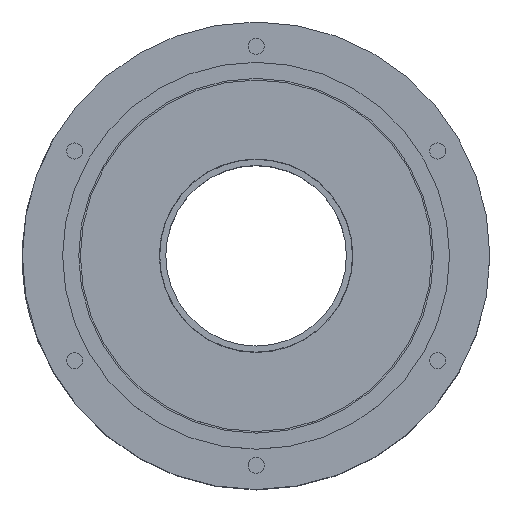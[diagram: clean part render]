
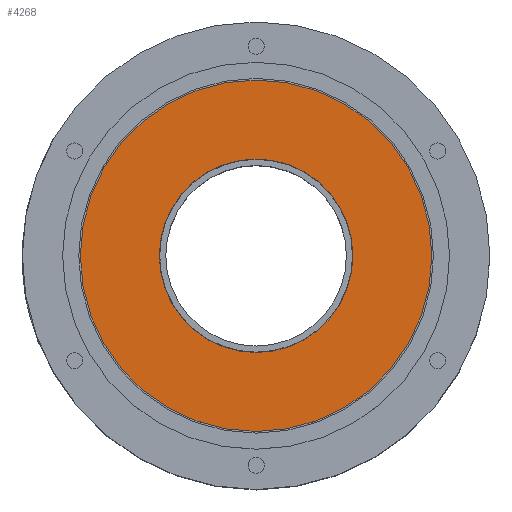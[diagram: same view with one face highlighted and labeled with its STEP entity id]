
A CAD part, top view. The second image highlights one B-rep face of the part: STEP entity #4268.
In plain terms, the highlighted planar face has unit normal (0, 0, 1).
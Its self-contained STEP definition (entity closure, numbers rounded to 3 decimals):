
#2189 = DIRECTION ( 'NONE',  ( 1., 0., 0. ) ) ;
#2190 = DIRECTION ( 'NONE',  ( 0., 0., 1. ) ) ;
#2191 = CARTESIAN_POINT ( 'NONE',  ( 0., 0., 85. ) ) ;
#2192 = AXIS2_PLACEMENT_3D ( 'NONE', #2191, #2190, #2189 ) ;
#2203 = CIRCLE ( 'NONE', #2192, 30. ) ;
#2227 = PLANE ( 'NONE',  #2233 ) ;
#2228 = DIRECTION ( 'NONE',  ( 1., 0., 0. ) ) ;
#2229 = DIRECTION ( 'NONE',  ( 0., 0., 1. ) ) ;
#2230 = CARTESIAN_POINT ( 'NONE',  ( 0., 0., 85. ) ) ;
#2231 = AXIS2_PLACEMENT_3D ( 'NONE', #2230, #2229, #2228 ) ;
#2232 = CIRCLE ( 'NONE', #2231, 54.5 ) ;
#2233 = AXIS2_PLACEMENT_3D ( 'NONE', #2234, #2281, #2280 ) ;
#2234 = CARTESIAN_POINT ( 'NONE',  ( 0., -28., 85. ) ) ;
#2243 = FACE_BOUND ( 'NONE', #4242, .T. ) ;
#2250 = FACE_OUTER_BOUND ( 'NONE', #4264, .T. ) ;
#2280 = DIRECTION ( 'NONE',  ( 0., -1., 0. ) ) ;
#2281 = DIRECTION ( 'NONE',  ( 0., 0., 1. ) ) ;
#2925 = CARTESIAN_POINT ( 'NONE',  ( -30., 0., 85. ) ) ;
#2966 = CARTESIAN_POINT ( 'NONE',  ( 30., 0., 85. ) ) ;
#3008 = DIRECTION ( 'NONE',  ( 1., 0., 0. ) ) ;
#3009 = DIRECTION ( 'NONE',  ( 0., 0., 1. ) ) ;
#3010 = CARTESIAN_POINT ( 'NONE',  ( 0., 0., 85. ) ) ;
#3020 = CARTESIAN_POINT ( 'NONE',  ( 54.5, 0., 85. ) ) ;
#3021 = AXIS2_PLACEMENT_3D ( 'NONE', #3010, #3009, #3008 ) ;
#3023 = CARTESIAN_POINT ( 'NONE',  ( -54.5, 0., 85. ) ) ;
#3026 = CIRCLE ( 'NONE', #3021, 54.5 ) ;
#3037 = DIRECTION ( 'NONE',  ( 0., 0., 1. ) ) ;
#3047 = CARTESIAN_POINT ( 'NONE',  ( 0., 0., 85. ) ) ;
#3049 = CIRCLE ( 'NONE', #3092, 30. ) ;
#3091 = DIRECTION ( 'NONE',  ( 1., 0., 0. ) ) ;
#3092 = AXIS2_PLACEMENT_3D ( 'NONE', #3047, #3037, #3091 ) ;
#4242 = EDGE_LOOP ( 'NONE', ( #4250, #4262 ) ) ;
#4246 = EDGE_CURVE ( 'NONE', #4632, #4633, #2203, .T. ) ;
#4250 = ORIENTED_EDGE ( 'NONE', *, *, #4246, .F. ) ;
#4259 = ORIENTED_EDGE ( 'NONE', *, *, #4263, .T. ) ;
#4262 = ORIENTED_EDGE ( 'NONE', *, *, #4701, .F. ) ;
#4263 = EDGE_CURVE ( 'NONE', #4692, #4687, #2232, .T. ) ;
#4264 = EDGE_LOOP ( 'NONE', ( #4271, #4259 ) ) ;
#4268 = ADVANCED_FACE ( 'NONE', ( #2243, #2250 ), #2227, .T. ) ;
#4271 = ORIENTED_EDGE ( 'NONE', *, *, #4678, .T. ) ;
#4632 = VERTEX_POINT ( 'NONE', #2966 ) ;
#4633 = VERTEX_POINT ( 'NONE', #2925 ) ;
#4678 = EDGE_CURVE ( 'NONE', #4687, #4692, #3026, .T. ) ;
#4687 = VERTEX_POINT ( 'NONE', #3020 ) ;
#4692 = VERTEX_POINT ( 'NONE', #3023 ) ;
#4701 = EDGE_CURVE ( 'NONE', #4633, #4632, #3049, .T. ) ;
